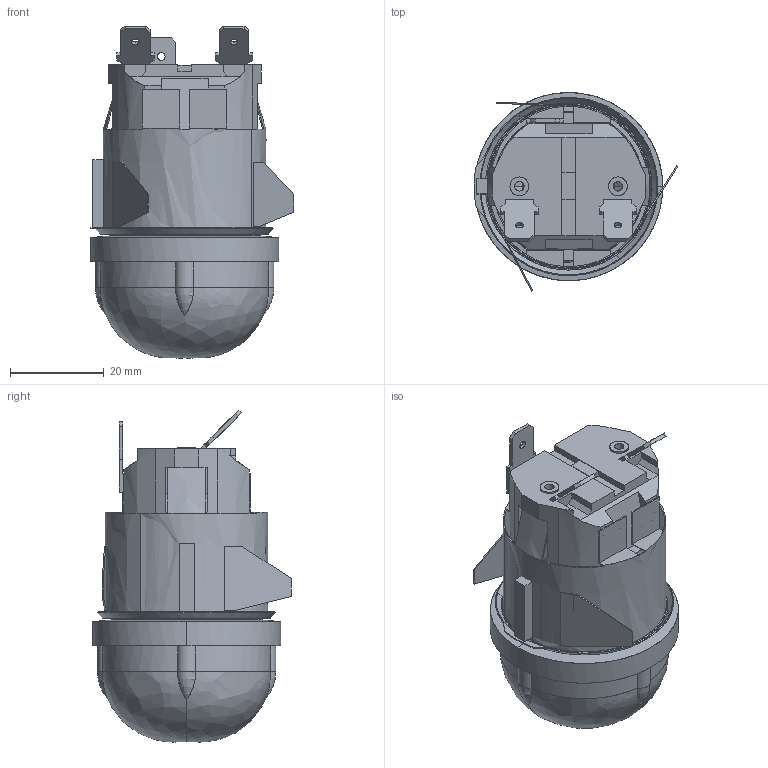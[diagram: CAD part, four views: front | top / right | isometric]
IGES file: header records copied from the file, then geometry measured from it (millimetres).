
Global section: file name: C:\coretechnologie2012\in/011YV0MY04.igs; native system: CT CoreTechnologie 3D Evolution; preprocessor: 2006; author: assmuth; date: 1130211.085042; units: millimetre
Bounding box: 43.43 x 42.4 x 70.75 mm (x, y, z)
Surface area: 22106.8 mm2 (no closed solid volume)
Topology: 0 solids, 0 shells, 477 faces, 2442 edges, 2432 vertices
Faces by surface type: bspline 477
